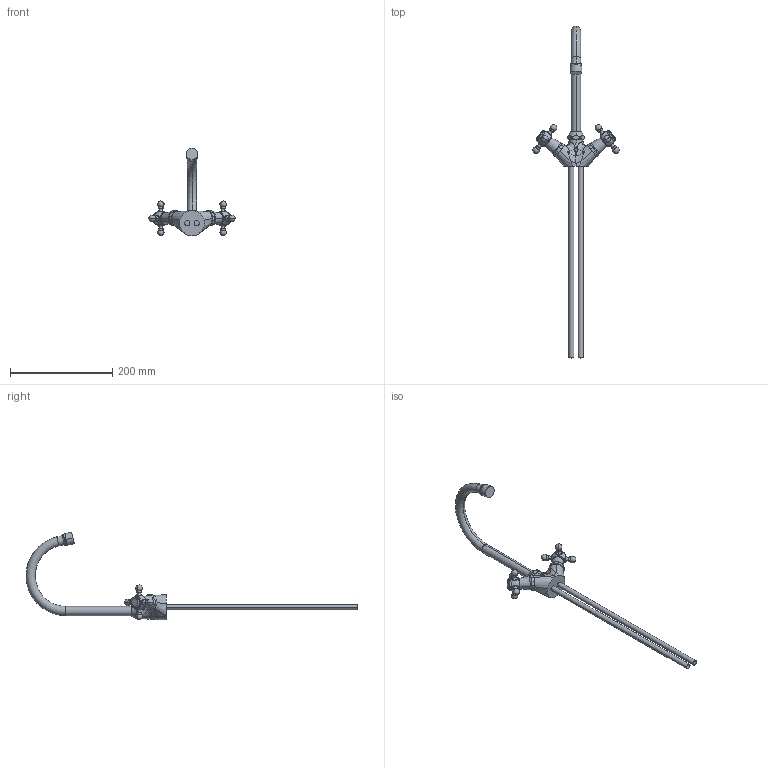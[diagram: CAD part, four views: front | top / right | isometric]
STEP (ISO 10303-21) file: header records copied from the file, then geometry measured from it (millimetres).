
FILE_DESCRIPTION((''),'2;1');
FILE_NAME('37020_WEB','2018-10-23T14:34:33',('jaj'),(''),'CREO PARAMETRIC BY PTC INC, 2017380','CREO PARAMETRIC BY PTC INC, 2017380','');
FILE_SCHEMA(('CONFIG_CONTROL_DESIGN'));
Length unit declared in the file: millimetre
Products named in the file (1): 37020_WEB
Bounding box: 168.73 x 649.24 x 171.29 mm (x, y, z)
Surface area: 73058 mm2 (no closed solid volume)
Topology: 0 solids, 12 shells, 227 faces, 561 edges, 330 vertices
Faces by surface type: bspline 66, torus 60, cylinder 36, plane 31, cone 18, sphere 16
Entity records: 11080 total; most frequent: CARTESIAN_POINT 6201, ORIENTED_EDGE 1014, DIRECTION 960, EDGE_CURVE 543, AXIS2_PLACEMENT_3D 441, VERTEX_POINT 330, CIRCLE 280, EDGE_LOOP 240
